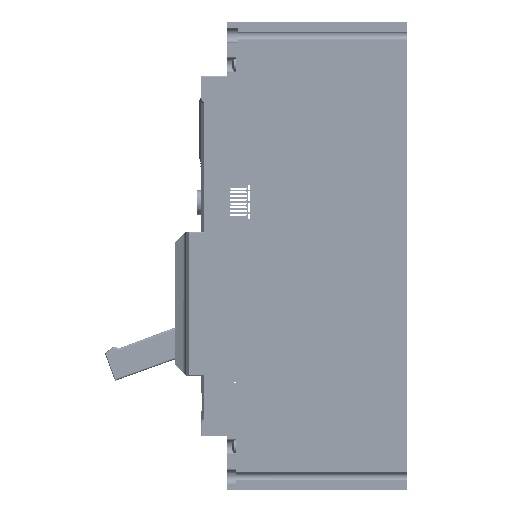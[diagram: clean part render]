
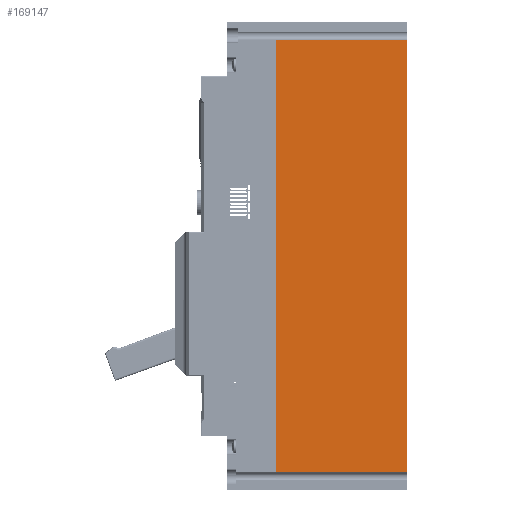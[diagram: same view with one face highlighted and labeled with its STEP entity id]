
A CAD part, left-side view. The second image highlights one B-rep face of the part: STEP entity #169147.
In plain terms, the highlighted planar face has unit normal (-1, 0, 0).
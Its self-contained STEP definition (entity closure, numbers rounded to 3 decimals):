
#11557 = DIRECTION ( 'NONE',  ( 0., -1., 0. ) ) ;
#38777 = VERTEX_POINT ( 'NONE', #316456 ) ;
#44979 = DIRECTION ( 'NONE',  ( 1., 0., 0. ) ) ;
#50732 = CARTESIAN_POINT ( 'NONE',  ( -101.92, -66.423, -62.896 ) ) ;
#76474 = VECTOR ( 'NONE', #235614, 1000. ) ;
#90535 = VECTOR ( 'NONE', #11557, 1000. ) ;
#116481 = EDGE_CURVE ( 'NONE', #151610, #38777, #125173, .T. ) ;
#120466 = VECTOR ( 'NONE', #356957, 1000. ) ;
#125173 = LINE ( 'NONE', #340652, #76474 ) ;
#125860 = CARTESIAN_POINT ( 'NONE',  ( -101.92, 14.312, 177.604 ) ) ;
#151610 = VERTEX_POINT ( 'NONE', #287888 ) ;
#166341 = CARTESIAN_POINT ( 'NONE',  ( -101.92, 14.312, 177.604 ) ) ;
#169147 = ADVANCED_FACE ( 'NONE', ( #311804 ), #199509, .F. ) ;
#199509 = PLANE ( 'NONE',  #236029 ) ;
#205062 = EDGE_LOOP ( 'NONE', ( #417751, #215396, #220805, #445694 ) ) ;
#215396 = ORIENTED_EDGE ( 'NONE', *, *, #321583, .T. ) ;
#220805 = ORIENTED_EDGE ( 'NONE', *, *, #116481, .T. ) ;
#235614 = DIRECTION ( 'NONE',  ( 0., 0., 1. ) ) ;
#236029 = AXIS2_PLACEMENT_3D ( 'NONE', #125860, #44979, #306952 ) ;
#281294 = DIRECTION ( 'NONE',  ( 0., 0., 1. ) ) ;
#287888 = CARTESIAN_POINT ( 'NONE',  ( -101.92, -55.688, -62.896 ) ) ;
#306952 = DIRECTION ( 'NONE',  ( 0., 1., 0. ) ) ;
#311804 = FACE_OUTER_BOUND ( 'NONE', #205062, .T. ) ;
#316195 = CARTESIAN_POINT ( 'NONE',  ( -101.92, 14.312, 168.104 ) ) ;
#316456 = CARTESIAN_POINT ( 'NONE',  ( -101.92, -55.688, 168.104 ) ) ;
#321583 = EDGE_CURVE ( 'NONE', #470567, #151610, #457348, .T. ) ;
#340652 = CARTESIAN_POINT ( 'NONE',  ( -101.92, -55.688, 177.604 ) ) ;
#354558 = LINE ( 'NONE', #428061, #120466 ) ;
#356957 = DIRECTION ( 'NONE',  ( 0., 1., 0. ) ) ;
#370270 = EDGE_CURVE ( 'NONE', #470567, #458105, #420878, .T. ) ;
#372928 = VECTOR ( 'NONE', #281294, 1000. ) ;
#417751 = ORIENTED_EDGE ( 'NONE', *, *, #370270, .F. ) ;
#418285 = EDGE_CURVE ( 'NONE', #38777, #458105, #354558, .T. ) ;
#420878 = LINE ( 'NONE', #166341, #372928 ) ;
#428061 = CARTESIAN_POINT ( 'NONE',  ( -101.92, -66.423, 168.104 ) ) ;
#445694 = ORIENTED_EDGE ( 'NONE', *, *, #418285, .T. ) ;
#453100 = CARTESIAN_POINT ( 'NONE',  ( -101.92, 14.312, -62.896 ) ) ;
#457348 = LINE ( 'NONE', #50732, #90535 ) ;
#458105 = VERTEX_POINT ( 'NONE', #316195 ) ;
#470567 = VERTEX_POINT ( 'NONE', #453100 ) ;
